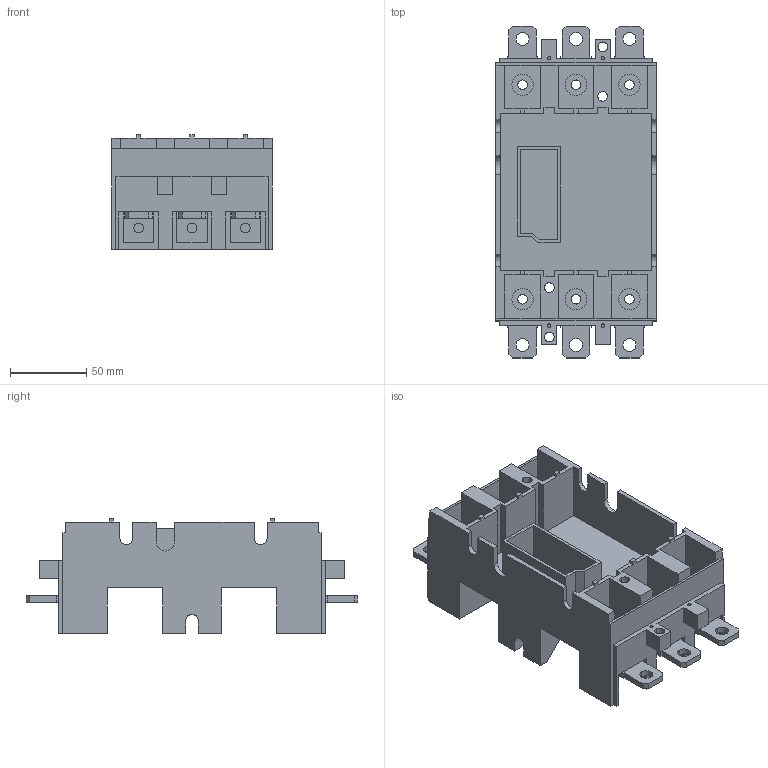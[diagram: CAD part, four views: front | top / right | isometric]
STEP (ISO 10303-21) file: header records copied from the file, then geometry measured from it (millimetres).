
FILE_DESCRIPTION (( 'STEP AP214' ), '1' );
FILE_NAME ('Êîìïëåêò äëÿ âòû÷íîãî ïðèñîåäèíåíèÿ OptiMat D250 âåðòèêàëüíûå âûâîäû.STEP', '2023-04-26T11:26:14', ( '' ), ( '' ), 'SwSTEP 2.0', 'SolidWorks 2018', '' );
FILE_SCHEMA (( 'AUTOMOTIVE_DESIGN' ));
Length unit declared in the file: millimetre
Products named in the file (1): Êîìïëåêò äëÿ âòû÷íîãî ïðèñîåäèíåíèÿ OptiMat D250 âåðòèêàëüíûå âûâîäû
Bounding box: 105 x 217.4 x 75.3 mm (x, y, z)
Volume: 373576.7 mm3; surface area: 168018.3 mm2
Topology: 7 solids, 7 shells, 384 faces, 1080 edges, 716 vertices
Faces by surface type: plane 300, cylinder 84
Entity records: 16722 total; most frequent: CARTESIAN_POINT 2187, ORIENTED_EDGE 2160, DIRECTION 2014, EDGE_CURVE 1080, VECTOR 912, LINE 912, VERTEX_POINT 716, AXIS2_PLACEMENT_3D 551
